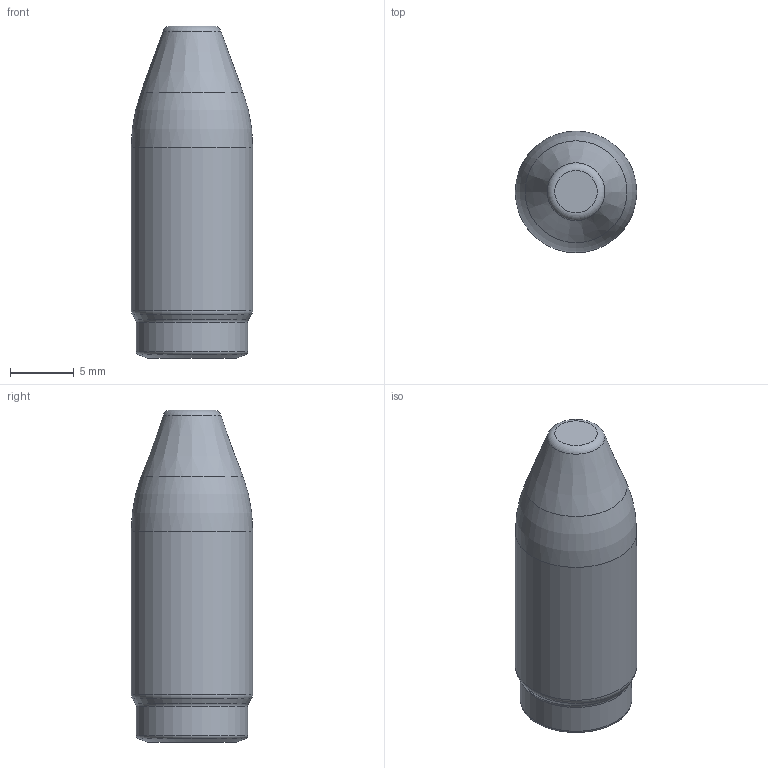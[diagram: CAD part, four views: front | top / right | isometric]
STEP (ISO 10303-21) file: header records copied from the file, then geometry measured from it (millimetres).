
FILE_DESCRIPTION (( 'STEP AP214' ), '1' );
FILE_NAME ('P-.375-.075-BT.STEP', '2023-10-06T14:35:54', ( '' ), ( '' ), 'SwSTEP 2.0', 'SolidWorks 2020', '' );
FILE_SCHEMA (( 'AUTOMOTIVE_DESIGN' ));
Length unit declared in the file: inch
Products named in the file (1): P-.375-.075-BT
Bounding box: 9.53 x 9.53 x 26.04 mm (x, y, z)
Volume: 1338.4 mm3; surface area: 978.4 mm2
Topology: 1 solids, 1 shells, 16 faces, 34 edges, 20 vertices
Faces by surface type: torus 5, cone 5, cylinder 4, plane 2
Full cylindrical faces by diameter (mm): 3.797 x1, 4.826 x1, 8.763 x1, 9.525 x1
Entity records: 354 total; most frequent: DIRECTION 64, CARTESIAN_POINT 47, AXIS2_PLACEMENT_3D 32, ORIENTED_EDGE 30, EDGE_LOOP 30, FACE_OUTER_BOUND 25, ADVANCED_FACE 16, VERTEX_POINT 15
